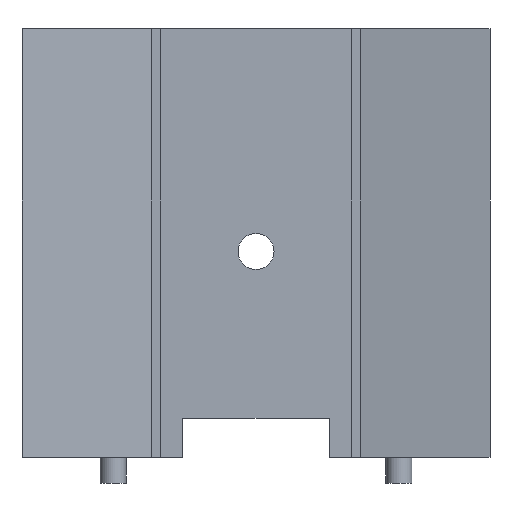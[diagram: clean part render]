
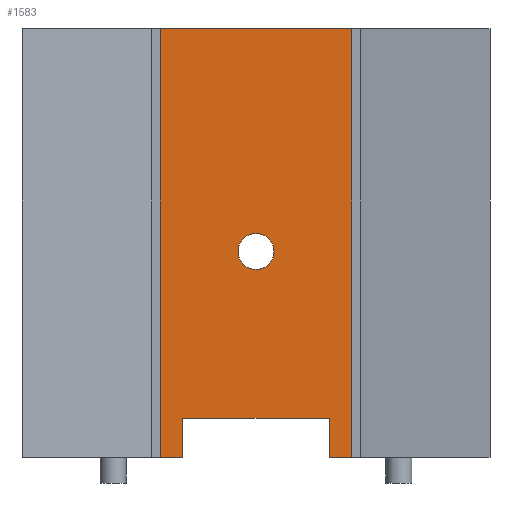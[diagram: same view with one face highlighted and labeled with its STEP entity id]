
A CAD part, front view. The second image highlights one B-rep face of the part: STEP entity #1583.
In plain terms, the highlighted planar face has unit normal (0, -1, 0).
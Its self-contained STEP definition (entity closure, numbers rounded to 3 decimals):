
#50 = VERTEX_POINT('',#51);
#51 = CARTESIAN_POINT('',(8.5,-0.8,38.1));
#58 = PLANE('',#59);
#59 = AXIS2_PLACEMENT_3D('',#60,#61,#62);
#60 = CARTESIAN_POINT('',(8.5,-12.5,0.));
#61 = DIRECTION('',(1.,0.,0.));
#62 = DIRECTION('',(0.,0.,1.));
#70 = PLANE('',#71);
#71 = AXIS2_PLACEMENT_3D('',#72,#73,#74);
#72 = CARTESIAN_POINT('',(8.5,-12.5,38.1));
#73 = DIRECTION('',(0.,0.,1.));
#74 = DIRECTION('',(1.,0.,0.));
#111 = VERTEX_POINT('',#112);
#112 = CARTESIAN_POINT('',(8.5,-0.8,0.));
#126 = PLANE('',#127);
#127 = AXIS2_PLACEMENT_3D('',#128,#129,#130);
#128 = CARTESIAN_POINT('',(8.5,-12.5,0.));
#129 = DIRECTION('',(0.,0.,1.));
#130 = DIRECTION('',(1.,0.,0.));
#138 = EDGE_CURVE('',#111,#50,#139,.T.);
#139 = SURFACE_CURVE('',#140,(#144,#151),.PCURVE_S1.);
#140 = LINE('',#141,#142);
#141 = CARTESIAN_POINT('',(8.5,-0.8,0.));
#142 = VECTOR('',#143,1.);
#143 = DIRECTION('',(0.,0.,1.));
#144 = PCURVE('',#58,#145);
#145 = DEFINITIONAL_REPRESENTATION('',(#146),#150);
#146 = LINE('',#147,#148);
#147 = CARTESIAN_POINT('',(0.,-11.7));
#148 = VECTOR('',#149,1.);
#149 = DIRECTION('',(1.,0.));
#150 = ( GEOMETRIC_REPRESENTATION_CONTEXT(2) 
PARAMETRIC_REPRESENTATION_CONTEXT() REPRESENTATION_CONTEXT('2D SPACE',''
  ) );
#151 = PCURVE('',#152,#157);
#152 = PLANE('',#153);
#153 = AXIS2_PLACEMENT_3D('',#154,#155,#156);
#154 = CARTESIAN_POINT('',(-8.5,-0.8,0.));
#155 = DIRECTION('',(0.,1.,0.));
#156 = DIRECTION('',(0.,0.,1.));
#157 = DEFINITIONAL_REPRESENTATION('',(#158),#162);
#158 = LINE('',#159,#160);
#159 = CARTESIAN_POINT('',(0.,17.));
#160 = VECTOR('',#161,1.);
#161 = DIRECTION('',(1.,0.));
#162 = ( GEOMETRIC_REPRESENTATION_CONTEXT(2) 
PARAMETRIC_REPRESENTATION_CONTEXT() REPRESENTATION_CONTEXT('2D SPACE',''
  ) );
#1536 = VERTEX_POINT('',#1537);
#1537 = CARTESIAN_POINT('',(-8.5,-0.8,38.1));
#1551 = PLANE('',#1552);
#1552 = AXIS2_PLACEMENT_3D('',#1553,#1554,#1555);
#1553 = CARTESIAN_POINT('',(-8.5,-12.5,0.));
#1554 = DIRECTION('',(1.,0.,0.));
#1555 = DIRECTION('',(0.,0.,1.));
#1563 = EDGE_CURVE('',#1536,#50,#1564,.T.);
#1564 = SURFACE_CURVE('',#1565,(#1569,#1576),.PCURVE_S1.);
#1565 = LINE('',#1566,#1567);
#1566 = CARTESIAN_POINT('',(-8.5,-0.8,38.1));
#1567 = VECTOR('',#1568,1.);
#1568 = DIRECTION('',(1.,0.,0.));
#1569 = PCURVE('',#70,#1570);
#1570 = DEFINITIONAL_REPRESENTATION('',(#1571),#1575);
#1571 = LINE('',#1572,#1573);
#1572 = CARTESIAN_POINT('',(-17.,11.7));
#1573 = VECTOR('',#1574,1.);
#1574 = DIRECTION('',(1.,0.));
#1575 = ( GEOMETRIC_REPRESENTATION_CONTEXT(2) 
PARAMETRIC_REPRESENTATION_CONTEXT() REPRESENTATION_CONTEXT('2D SPACE',''
  ) );
#1576 = PCURVE('',#152,#1577);
#1577 = DEFINITIONAL_REPRESENTATION('',(#1578),#1582);
#1578 = LINE('',#1579,#1580);
#1579 = CARTESIAN_POINT('',(38.1,0.));
#1580 = VECTOR('',#1581,1.);
#1581 = DIRECTION('',(0.,1.));
#1582 = ( GEOMETRIC_REPRESENTATION_CONTEXT(2) 
PARAMETRIC_REPRESENTATION_CONTEXT() REPRESENTATION_CONTEXT('2D SPACE',''
  ) );
#1583 = ADVANCED_FACE('',(#1584,#1738),#152,.F.);
#1584 = FACE_BOUND('',#1585,.F.);
#1585 = EDGE_LOOP('',(#1586,#1616,#1637,#1638,#1639,#1662,#1688,#1714));
#1586 = ORIENTED_EDGE('',*,*,#1587,.F.);
#1587 = EDGE_CURVE('',#1588,#1590,#1592,.T.);
#1588 = VERTEX_POINT('',#1589);
#1589 = CARTESIAN_POINT('',(-8.5,-0.8,0.));
#1590 = VERTEX_POINT('',#1591);
#1591 = CARTESIAN_POINT('',(-6.5,-0.8,0.));
#1592 = SURFACE_CURVE('',#1593,(#1597,#1604),.PCURVE_S1.);
#1593 = LINE('',#1594,#1595);
#1594 = CARTESIAN_POINT('',(-8.5,-0.8,0.));
#1595 = VECTOR('',#1596,1.);
#1596 = DIRECTION('',(1.,0.,0.));
#1597 = PCURVE('',#152,#1598);
#1598 = DEFINITIONAL_REPRESENTATION('',(#1599),#1603);
#1599 = LINE('',#1600,#1601);
#1600 = CARTESIAN_POINT('',(0.,0.));
#1601 = VECTOR('',#1602,1.);
#1602 = DIRECTION('',(0.,1.));
#1603 = ( GEOMETRIC_REPRESENTATION_CONTEXT(2) 
PARAMETRIC_REPRESENTATION_CONTEXT() REPRESENTATION_CONTEXT('2D SPACE',''
  ) );
#1604 = PCURVE('',#1605,#1610);
#1605 = PLANE('',#1606);
#1606 = AXIS2_PLACEMENT_3D('',#1607,#1608,#1609);
#1607 = CARTESIAN_POINT('',(-9.3,-12.5,0.));
#1608 = DIRECTION('',(0.,0.,1.));
#1609 = DIRECTION('',(1.,0.,0.));
#1610 = DEFINITIONAL_REPRESENTATION('',(#1611),#1615);
#1611 = LINE('',#1612,#1613);
#1612 = CARTESIAN_POINT('',(0.8,11.7));
#1613 = VECTOR('',#1614,1.);
#1614 = DIRECTION('',(1.,0.));
#1615 = ( GEOMETRIC_REPRESENTATION_CONTEXT(2) 
PARAMETRIC_REPRESENTATION_CONTEXT() REPRESENTATION_CONTEXT('2D SPACE',''
  ) );
#1616 = ORIENTED_EDGE('',*,*,#1617,.T.);
#1617 = EDGE_CURVE('',#1588,#1536,#1618,.T.);
#1618 = SURFACE_CURVE('',#1619,(#1623,#1630),.PCURVE_S1.);
#1619 = LINE('',#1620,#1621);
#1620 = CARTESIAN_POINT('',(-8.5,-0.8,0.));
#1621 = VECTOR('',#1622,1.);
#1622 = DIRECTION('',(0.,0.,1.));
#1623 = PCURVE('',#152,#1624);
#1624 = DEFINITIONAL_REPRESENTATION('',(#1625),#1629);
#1625 = LINE('',#1626,#1627);
#1626 = CARTESIAN_POINT('',(0.,0.));
#1627 = VECTOR('',#1628,1.);
#1628 = DIRECTION('',(1.,0.));
#1629 = ( GEOMETRIC_REPRESENTATION_CONTEXT(2) 
PARAMETRIC_REPRESENTATION_CONTEXT() REPRESENTATION_CONTEXT('2D SPACE',''
  ) );
#1630 = PCURVE('',#1551,#1631);
#1631 = DEFINITIONAL_REPRESENTATION('',(#1632),#1636);
#1632 = LINE('',#1633,#1634);
#1633 = CARTESIAN_POINT('',(0.,-11.7));
#1634 = VECTOR('',#1635,1.);
#1635 = DIRECTION('',(1.,0.));
#1636 = ( GEOMETRIC_REPRESENTATION_CONTEXT(2) 
PARAMETRIC_REPRESENTATION_CONTEXT() REPRESENTATION_CONTEXT('2D SPACE',''
  ) );
#1637 = ORIENTED_EDGE('',*,*,#1563,.T.);
#1638 = ORIENTED_EDGE('',*,*,#138,.F.);
#1639 = ORIENTED_EDGE('',*,*,#1640,.F.);
#1640 = EDGE_CURVE('',#1641,#111,#1643,.T.);
#1641 = VERTEX_POINT('',#1642);
#1642 = CARTESIAN_POINT('',(6.5,-0.8,0.));
#1643 = SURFACE_CURVE('',#1644,(#1648,#1655),.PCURVE_S1.);
#1644 = LINE('',#1645,#1646);
#1645 = CARTESIAN_POINT('',(-8.5,-0.8,0.));
#1646 = VECTOR('',#1647,1.);
#1647 = DIRECTION('',(1.,0.,0.));
#1648 = PCURVE('',#152,#1649);
#1649 = DEFINITIONAL_REPRESENTATION('',(#1650),#1654);
#1650 = LINE('',#1651,#1652);
#1651 = CARTESIAN_POINT('',(0.,0.));
#1652 = VECTOR('',#1653,1.);
#1653 = DIRECTION('',(0.,1.));
#1654 = ( GEOMETRIC_REPRESENTATION_CONTEXT(2) 
PARAMETRIC_REPRESENTATION_CONTEXT() REPRESENTATION_CONTEXT('2D SPACE',''
  ) );
#1655 = PCURVE('',#126,#1656);
#1656 = DEFINITIONAL_REPRESENTATION('',(#1657),#1661);
#1657 = LINE('',#1658,#1659);
#1658 = CARTESIAN_POINT('',(-17.,11.7));
#1659 = VECTOR('',#1660,1.);
#1660 = DIRECTION('',(1.,0.));
#1661 = ( GEOMETRIC_REPRESENTATION_CONTEXT(2) 
PARAMETRIC_REPRESENTATION_CONTEXT() REPRESENTATION_CONTEXT('2D SPACE',''
  ) );
#1662 = ORIENTED_EDGE('',*,*,#1663,.F.);
#1663 = EDGE_CURVE('',#1664,#1641,#1666,.T.);
#1664 = VERTEX_POINT('',#1665);
#1665 = CARTESIAN_POINT('',(6.5,-0.8,3.5));
#1666 = SURFACE_CURVE('',#1667,(#1671,#1677),.PCURVE_S1.);
#1667 = LINE('',#1668,#1669);
#1668 = CARTESIAN_POINT('',(6.5,-0.8,0.));
#1669 = VECTOR('',#1670,1.);
#1670 = DIRECTION('',(0.,0.,-1.));
#1671 = PCURVE('',#152,#1672);
#1672 = DEFINITIONAL_REPRESENTATION('',(#1673),#1676);
#1673 = B_SPLINE_CURVE_WITH_KNOTS('',1,(#1674,#1675),.UNSPECIFIED.,.F.,
  .F.,(2,2),(-3.5,0.),.PIECEWISE_BEZIER_KNOTS.);
#1674 = CARTESIAN_POINT('',(3.5,15.));
#1675 = CARTESIAN_POINT('',(0.,15.));
#1676 = ( GEOMETRIC_REPRESENTATION_CONTEXT(2) 
PARAMETRIC_REPRESENTATION_CONTEXT() REPRESENTATION_CONTEXT('2D SPACE',''
  ) );
#1677 = PCURVE('',#1678,#1683);
#1678 = PLANE('',#1679);
#1679 = AXIS2_PLACEMENT_3D('',#1680,#1681,#1682);
#1680 = CARTESIAN_POINT('',(6.5,-1.6,0.));
#1681 = DIRECTION('',(1.,0.,0.));
#1682 = DIRECTION('',(0.,0.,1.));
#1683 = DEFINITIONAL_REPRESENTATION('',(#1684),#1687);
#1684 = B_SPLINE_CURVE_WITH_KNOTS('',1,(#1685,#1686),.UNSPECIFIED.,.F.,
  .F.,(2,2),(-3.5,0.),.PIECEWISE_BEZIER_KNOTS.);
#1685 = CARTESIAN_POINT('',(3.5,-0.8));
#1686 = CARTESIAN_POINT('',(0.,-0.8));
#1687 = ( GEOMETRIC_REPRESENTATION_CONTEXT(2) 
PARAMETRIC_REPRESENTATION_CONTEXT() REPRESENTATION_CONTEXT('2D SPACE',''
  ) );
#1688 = ORIENTED_EDGE('',*,*,#1689,.F.);
#1689 = EDGE_CURVE('',#1690,#1664,#1692,.T.);
#1690 = VERTEX_POINT('',#1691);
#1691 = CARTESIAN_POINT('',(-6.5,-0.8,3.5));
#1692 = SURFACE_CURVE('',#1693,(#1697,#1703),.PCURVE_S1.);
#1693 = LINE('',#1694,#1695);
#1694 = CARTESIAN_POINT('',(-7.5,-0.8,3.5));
#1695 = VECTOR('',#1696,1.);
#1696 = DIRECTION('',(1.,0.,0.));
#1697 = PCURVE('',#152,#1698);
#1698 = DEFINITIONAL_REPRESENTATION('',(#1699),#1702);
#1699 = B_SPLINE_CURVE_WITH_KNOTS('',1,(#1700,#1701),.UNSPECIFIED.,.F.,
  .F.,(2,2),(1.,14.),.PIECEWISE_BEZIER_KNOTS.);
#1700 = CARTESIAN_POINT('',(3.5,2.));
#1701 = CARTESIAN_POINT('',(3.5,15.));
#1702 = ( GEOMETRIC_REPRESENTATION_CONTEXT(2) 
PARAMETRIC_REPRESENTATION_CONTEXT() REPRESENTATION_CONTEXT('2D SPACE',''
  ) );
#1703 = PCURVE('',#1704,#1709);
#1704 = PLANE('',#1705);
#1705 = AXIS2_PLACEMENT_3D('',#1706,#1707,#1708);
#1706 = CARTESIAN_POINT('',(-6.5,-1.6,3.5));
#1707 = DIRECTION('',(0.,0.,1.));
#1708 = DIRECTION('',(1.,0.,0.));
#1709 = DEFINITIONAL_REPRESENTATION('',(#1710),#1713);
#1710 = B_SPLINE_CURVE_WITH_KNOTS('',1,(#1711,#1712),.UNSPECIFIED.,.F.,
  .F.,(2,2),(1.,14.),.PIECEWISE_BEZIER_KNOTS.);
#1711 = CARTESIAN_POINT('',(0.,0.8));
#1712 = CARTESIAN_POINT('',(13.,0.8));
#1713 = ( GEOMETRIC_REPRESENTATION_CONTEXT(2) 
PARAMETRIC_REPRESENTATION_CONTEXT() REPRESENTATION_CONTEXT('2D SPACE',''
  ) );
#1714 = ORIENTED_EDGE('',*,*,#1715,.T.);
#1715 = EDGE_CURVE('',#1690,#1590,#1716,.T.);
#1716 = SURFACE_CURVE('',#1717,(#1721,#1727),.PCURVE_S1.);
#1717 = LINE('',#1718,#1719);
#1718 = CARTESIAN_POINT('',(-6.5,-0.8,0.));
#1719 = VECTOR('',#1720,1.);
#1720 = DIRECTION('',(0.,0.,-1.));
#1721 = PCURVE('',#152,#1722);
#1722 = DEFINITIONAL_REPRESENTATION('',(#1723),#1726);
#1723 = B_SPLINE_CURVE_WITH_KNOTS('',1,(#1724,#1725),.UNSPECIFIED.,.F.,
  .F.,(2,2),(-3.5,0.),.PIECEWISE_BEZIER_KNOTS.);
#1724 = CARTESIAN_POINT('',(3.5,2.));
#1725 = CARTESIAN_POINT('',(0.,2.));
#1726 = ( GEOMETRIC_REPRESENTATION_CONTEXT(2) 
PARAMETRIC_REPRESENTATION_CONTEXT() REPRESENTATION_CONTEXT('2D SPACE',''
  ) );
#1727 = PCURVE('',#1728,#1733);
#1728 = PLANE('',#1729);
#1729 = AXIS2_PLACEMENT_3D('',#1730,#1731,#1732);
#1730 = CARTESIAN_POINT('',(-6.5,-1.6,0.));
#1731 = DIRECTION('',(1.,0.,0.));
#1732 = DIRECTION('',(0.,0.,1.));
#1733 = DEFINITIONAL_REPRESENTATION('',(#1734),#1737);
#1734 = B_SPLINE_CURVE_WITH_KNOTS('',1,(#1735,#1736),.UNSPECIFIED.,.F.,
  .F.,(2,2),(-3.5,0.),.PIECEWISE_BEZIER_KNOTS.);
#1735 = CARTESIAN_POINT('',(3.5,-0.8));
#1736 = CARTESIAN_POINT('',(0.,-0.8));
#1737 = ( GEOMETRIC_REPRESENTATION_CONTEXT(2) 
PARAMETRIC_REPRESENTATION_CONTEXT() REPRESENTATION_CONTEXT('2D SPACE',''
  ) );
#1738 = FACE_BOUND('',#1739,.F.);
#1739 = EDGE_LOOP('',(#1740));
#1740 = ORIENTED_EDGE('',*,*,#1741,.F.);
#1741 = EDGE_CURVE('',#1742,#1742,#1744,.T.);
#1742 = VERTEX_POINT('',#1743);
#1743 = CARTESIAN_POINT('',(0.,-0.8,19.9));
#1744 = SURFACE_CURVE('',#1745,(#1750,#1757),.PCURVE_S1.);
#1745 = CIRCLE('',#1746,1.6);
#1746 = AXIS2_PLACEMENT_3D('',#1747,#1748,#1749);
#1747 = CARTESIAN_POINT('',(0.,-0.8,18.3));
#1748 = DIRECTION('',(0.,1.,0.));
#1749 = DIRECTION('',(0.,-0.,1.));
#1750 = PCURVE('',#152,#1751);
#1751 = DEFINITIONAL_REPRESENTATION('',(#1752),#1756);
#1752 = CIRCLE('',#1753,1.6);
#1753 = AXIS2_PLACEMENT_2D('',#1754,#1755);
#1754 = CARTESIAN_POINT('',(18.3,8.5));
#1755 = DIRECTION('',(1.,0.));
#1756 = ( GEOMETRIC_REPRESENTATION_CONTEXT(2) 
PARAMETRIC_REPRESENTATION_CONTEXT() REPRESENTATION_CONTEXT('2D SPACE',''
  ) );
#1757 = PCURVE('',#1758,#1763);
#1758 = CYLINDRICAL_SURFACE('',#1759,1.6);
#1759 = AXIS2_PLACEMENT_3D('',#1760,#1761,#1762);
#1760 = CARTESIAN_POINT('',(0.,-2.,18.3));
#1761 = DIRECTION('',(0.,1.,0.));
#1762 = DIRECTION('',(0.,-0.,1.));
#1763 = DEFINITIONAL_REPRESENTATION('',(#1764),#1768);
#1764 = LINE('',#1765,#1766);
#1765 = CARTESIAN_POINT('',(0.,1.2));
#1766 = VECTOR('',#1767,1.);
#1767 = DIRECTION('',(1.,0.));
#1768 = ( GEOMETRIC_REPRESENTATION_CONTEXT(2) 
PARAMETRIC_REPRESENTATION_CONTEXT() REPRESENTATION_CONTEXT('2D SPACE',''
  ) );
